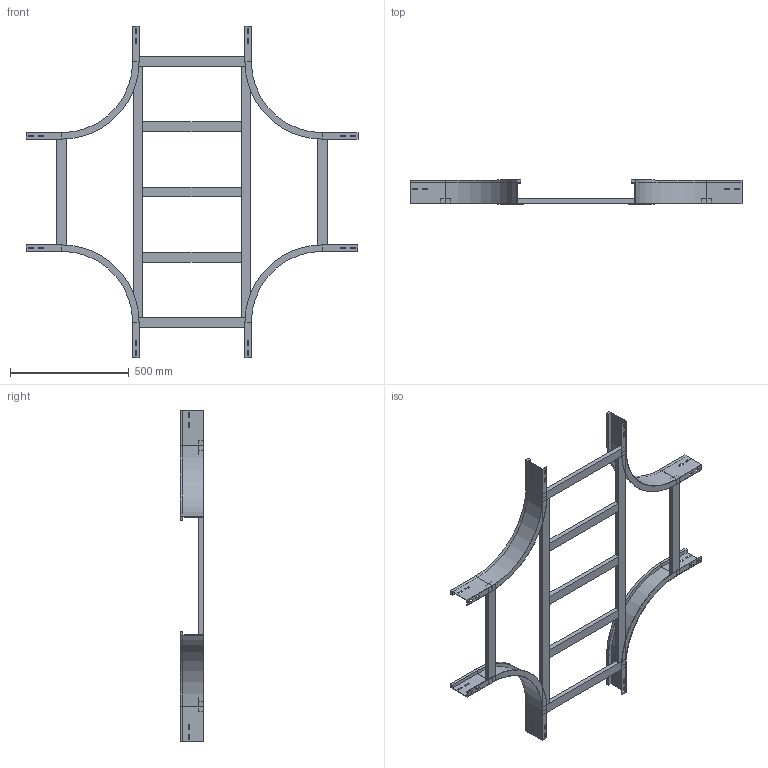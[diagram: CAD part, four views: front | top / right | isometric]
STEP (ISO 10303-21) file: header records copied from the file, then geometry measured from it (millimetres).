
FILE_DESCRIPTION (( 'STEP AP214' ), '1' );
FILE_NAME ('A2_17B3D500.step', '2025-02-21T15:55:06', ( '' ), ( '' ), 'SwSTEP 2.0', 'SolidWorks 2023', '' );
FILE_SCHEMA (( 'AUTOMOTIVE_DESIGN' ));
Length unit declared in the file: millimetre
Products named in the file (5): A2_LONGH.INTERNO 90°_H100_R300; TRAVERSINO_500; A2_TRAVERSINO_LONG._R300+500; TRAVERSINO_INTERMEDIO_R300+500; A2_17B3D500
Assembly tree (13 placements, depth 2):
  A2_17B3D500
    A2_LONGH.INTERNO 90°_H100_R300  x4
    TRAVERSINO_500  x4
    A2_TRAVERSINO_LONG._R300+500  x2
    TRAVERSINO_INTERMEDIO_R300+500  x3
Bounding box: 1400 x 100 x 1400 mm (x, y, z)
Volume: 5703450 mm3; surface area: 1550745.5 mm2
Topology: 13 solids, 13 shells, 286 faces, 716 edges, 456 vertices
Faces by surface type: plane 270, cylinder 16
Entity records: 2450 total; most frequent: CARTESIAN_POINT 400, DIRECTION 380, ORIENTED_EDGE 376, EDGE_CURVE 188, VECTOR 180, LINE 180, VERTEX_POINT 120, AXIS2_PLACEMENT_3D 100
